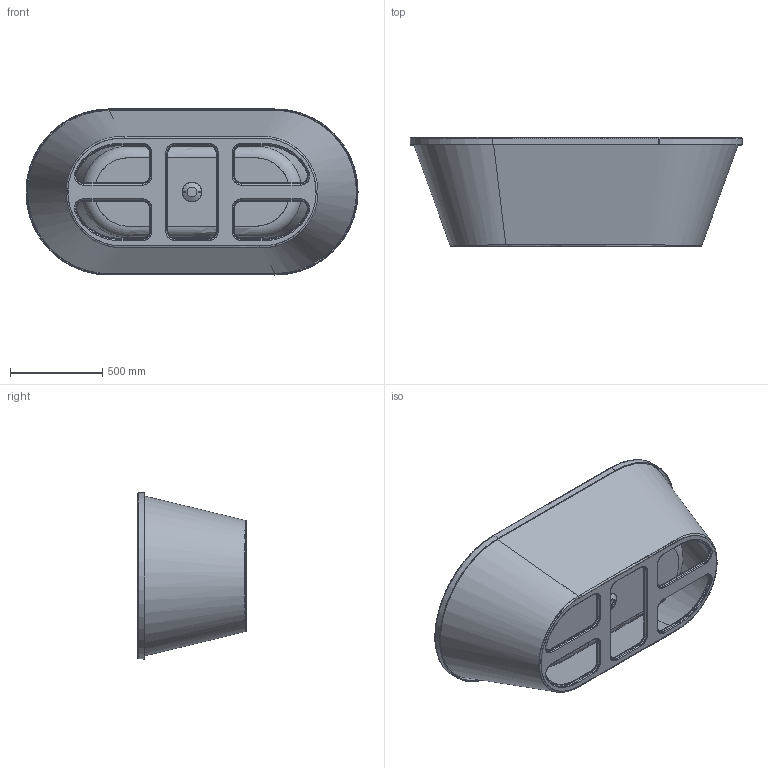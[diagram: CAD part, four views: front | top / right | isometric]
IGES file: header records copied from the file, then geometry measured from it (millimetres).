
Start section: SolidWorks IGES file using analytic representation for surfaces
Global section: file name: D:\Users\M.Szymanski\Desktop\Wanny\Philippe Starck\03. do przegrania\WO_kpl_Philippe Starck 180x90 Edition 1.IGS; native system: SolidWorks 2011; preprocessor: SolidWorks 2011; author: M.Szymanski; date: 180724.114459; units: millimetre
Bounding box: 1800 x 590 x 900 mm (x, y, z)
Surface area: 10923482 mm2 (no closed solid volume)
Topology: 0 solids, 0 shells, 218 faces, 3904 edges, 3902 vertices
Faces by surface type: bspline 128, revolution 90
